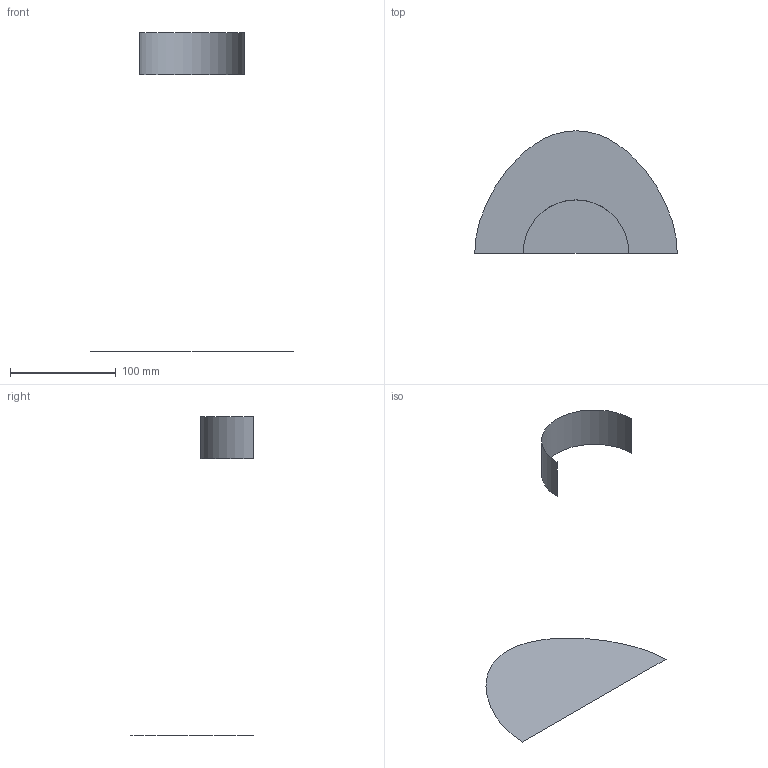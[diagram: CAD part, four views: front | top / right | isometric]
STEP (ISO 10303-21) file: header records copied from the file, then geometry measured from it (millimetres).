
FILE_DESCRIPTION(('CATIA V5 STEP Exchange'),'2;1');
FILE_NAME('C:\_Andres\UNIVERSIDAD\IQS\ASIGNATURAS\DAO\Controles\1617\c1\1original\Campmany_Monforte_Ej00-base_v6.stp','2017-02-06T16:27:34+00:00',('none'),('none'),'CATIA Version 5-6 Release 2014 SP1 HF18','CATIA V5 STEP AP203','none');
FILE_SCHEMA(('CONFIG_CONTROL_DESIGN'));
Length unit declared in the file: millimetre
Products named in the file (1): Campmany_Monforte_Ej00-base_v6
Bounding box: 192 x 116 x 302 mm (x, y, z)
Surface area: 23069.7 mm2 (no closed solid volume)
Topology: 0 solids, 2 shells, 2 faces, 16 edges, 26 vertices
Faces by surface type: cylinder 1, plane 1
Entity records: 230 total; most frequent: CARTESIAN_POINT 78, DIRECTION 16, COMPOSITE_CURVE_SEGMENT 9, TRIMMED_CURVE 9, AXIS2_PLACEMENT_3D 8, COMPOSITE_CURVE 7, ORIENTED_EDGE 7, EDGE_CURVE 7
